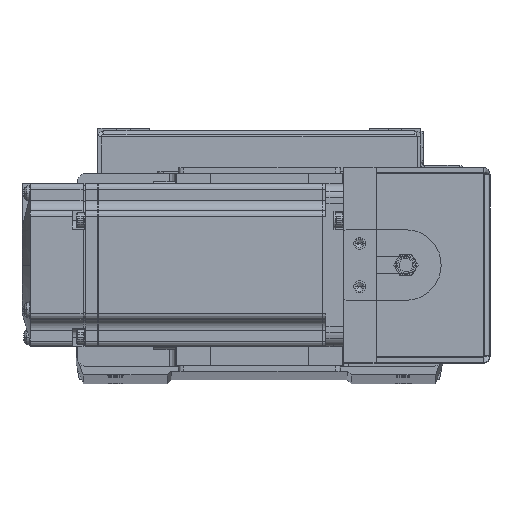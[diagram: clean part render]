
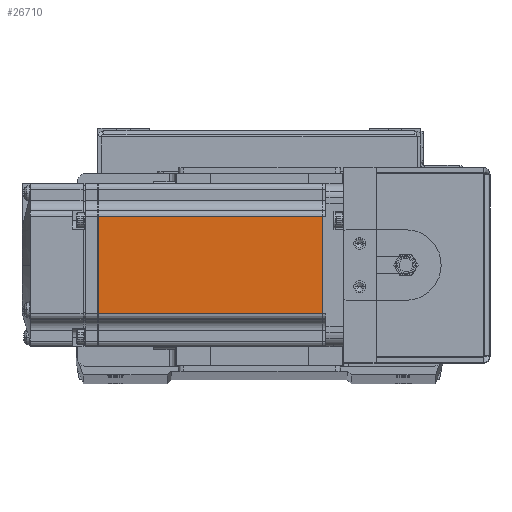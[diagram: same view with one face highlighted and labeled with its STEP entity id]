
A CAD part, top view. The second image highlights one B-rep face of the part: STEP entity #26710.
In plain terms, the highlighted planar face has unit normal (0, 0, 1).
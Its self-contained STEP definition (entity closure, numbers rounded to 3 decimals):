
#2848 = LINE ( 'NONE', #38133, #29883 ) ;
#5018 = EDGE_CURVE ( 'NONE', #13326, #34421, #21702, .T. ) ;
#5189 = VERTEX_POINT ( 'NONE', #10432 ) ;
#6123 = DIRECTION ( 'NONE',  ( -1., 0., 0. ) ) ;
#7662 = ORIENTED_EDGE ( 'NONE', *, *, #36951, .T. ) ;
#8106 = CARTESIAN_POINT ( 'NONE',  ( -6.5, -25., 30. ) ) ;
#8122 = VERTEX_POINT ( 'NONE', #38573 ) ;
#9071 = CARTESIAN_POINT ( 'NONE',  ( -6.5, -18., 30. ) ) ;
#10432 = CARTESIAN_POINT ( 'NONE',  ( -90.45, 18., 30. ) ) ;
#13027 = DIRECTION ( 'NONE',  ( 0., -1., 0. ) ) ;
#13326 = VERTEX_POINT ( 'NONE', #21800 ) ;
#13592 = AXIS2_PLACEMENT_3D ( 'NONE', #8106, #29565, #38029 ) ;
#13625 = CARTESIAN_POINT ( 'NONE',  ( -7.75, -18., 30. ) ) ;
#14431 = CARTESIAN_POINT ( 'NONE',  ( -90.45, 0., 30. ) ) ;
#15505 = VECTOR ( 'NONE', #13027, 1000. ) ;
#17188 = PLANE ( 'NONE',  #13592 ) ;
#20424 = DIRECTION ( 'NONE',  ( -1., 0., 0. ) ) ;
#21702 = LINE ( 'NONE', #30759, #15505 ) ;
#21800 = CARTESIAN_POINT ( 'NONE',  ( -7.75, 18., 30. ) ) ;
#23090 = LINE ( 'NONE', #14431, #31351 ) ;
#23860 = LINE ( 'NONE', #9071, #29217 ) ;
#24156 = EDGE_LOOP ( 'NONE', ( #34933, #32922, #7662, #29622 ) ) ;
#26205 = EDGE_CURVE ( 'NONE', #13326, #5189, #2848, .T. ) ;
#26233 = FACE_OUTER_BOUND ( 'NONE', #24156, .T. ) ;
#26710 = ADVANCED_FACE ( 'NONE', ( #26233 ), #17188, .T. ) ;
#29217 = VECTOR ( 'NONE', #6123, 1000. ) ;
#29565 = DIRECTION ( 'NONE',  ( 0., 0., 1. ) ) ;
#29622 = ORIENTED_EDGE ( 'NONE', *, *, #34589, .F. ) ;
#29883 = VECTOR ( 'NONE', #20424, 1000. ) ;
#30759 = CARTESIAN_POINT ( 'NONE',  ( -7.75, 0., 30. ) ) ;
#31351 = VECTOR ( 'NONE', #31946, 1000. ) ;
#31946 = DIRECTION ( 'NONE',  ( 0., -1., 0. ) ) ;
#32922 = ORIENTED_EDGE ( 'NONE', *, *, #26205, .T. ) ;
#34421 = VERTEX_POINT ( 'NONE', #13625 ) ;
#34589 = EDGE_CURVE ( 'NONE', #34421, #8122, #23860, .T. ) ;
#34933 = ORIENTED_EDGE ( 'NONE', *, *, #5018, .F. ) ;
#36951 = EDGE_CURVE ( 'NONE', #5189, #8122, #23090, .T. ) ;
#38029 = DIRECTION ( 'NONE',  ( 1., 0., 0. ) ) ;
#38133 = CARTESIAN_POINT ( 'NONE',  ( -6.5, 18., 30. ) ) ;
#38573 = CARTESIAN_POINT ( 'NONE',  ( -90.45, -18., 30. ) ) ;
